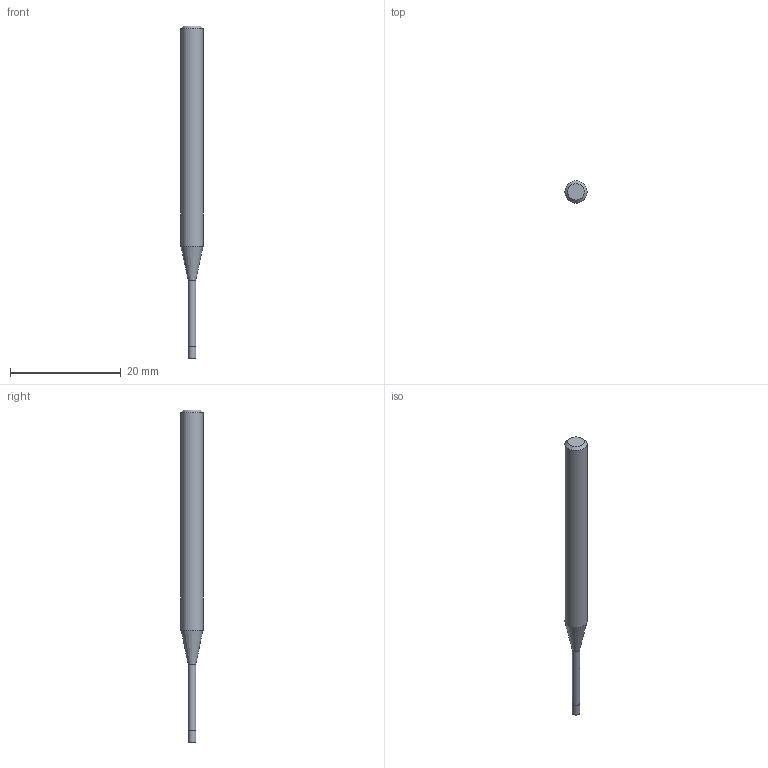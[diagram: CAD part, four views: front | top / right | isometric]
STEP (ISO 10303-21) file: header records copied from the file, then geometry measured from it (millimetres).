
FILE_DESCRIPTION((''),'2;1');
FILE_NAME('C:\Users\nsx150\AppData\Local\Temp\Mastercam 2021\17T8Q8S9EB\TEMP.step','2021-04-21T16:14:43',(''),(''),'STEP Write','Mastercam 2021 ... CNC Software, Inc.','');
FILE_SCHEMA(('AUTOMOTIVE_DESIGN'));
Length unit declared in the file: millimetre
Products named in the file (1): None
Bounding box: 4 x 4 x 60 mm (x, y, z)
Volume: 556.4 mm3; surface area: 626.1 mm2
Topology: 2 solids, 2 shells, 9 faces, 12 edges, 7 vertices
Faces by surface type: plane 4, cylinder 3, cone 2
Full cylindrical faces by diameter (mm): 1.35 x1, 1.4 x1, 4 x1
Entity records: 211 total; most frequent: DIRECTION 36, CARTESIAN_POINT 25, AXIS2_PLACEMENT_3D 18, ORIENTED_EDGE 14, EDGE_LOOP 14, STYLED_ITEM 12, ADVANCED_FACE 9, FACE_BOUND 8
